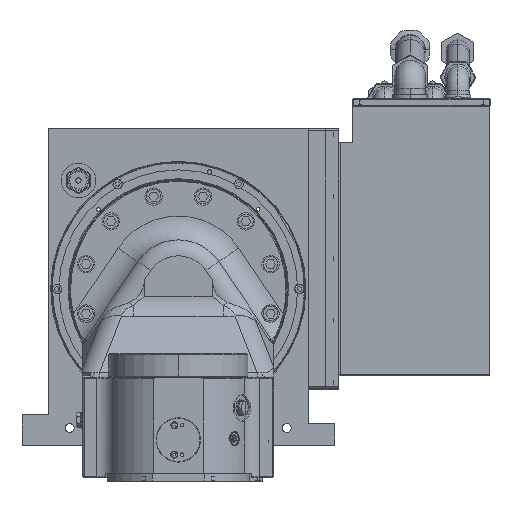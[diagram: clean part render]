
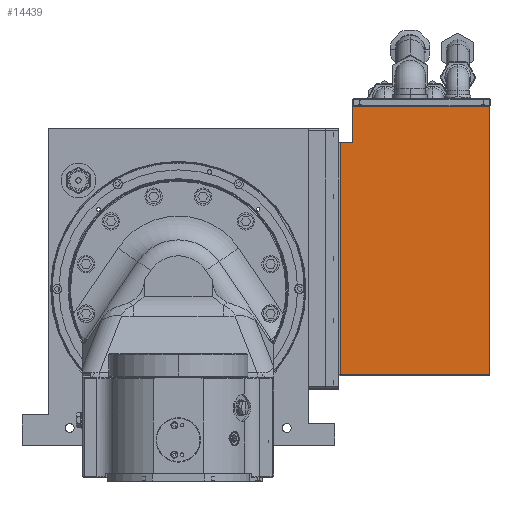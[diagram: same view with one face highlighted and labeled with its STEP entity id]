
A CAD part, top view. The second image highlights one B-rep face of the part: STEP entity #14439.
In plain terms, the highlighted planar face has unit normal (0, 0, 1).
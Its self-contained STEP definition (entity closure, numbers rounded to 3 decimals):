
#1931 = CARTESIAN_POINT ( 'NONE',  ( 201., 477., -78.7 ) ) ;
#2237 = EDGE_CURVE ( 'NONE', #51050, #56015, #31782, .T. ) ;
#2876 = EDGE_CURVE ( 'NONE', #29528, #60802, #55904, .T. ) ;
#5516 = VECTOR ( 'NONE', #53227, 1000. ) ;
#6088 = DIRECTION ( 'NONE',  ( 1., 0., 0. ) ) ;
#6266 = VERTEX_POINT ( 'NONE', #26398 ) ;
#9871 = DIRECTION ( 'NONE',  ( 0., 0., -1. ) ) ;
#10381 = LINE ( 'NONE', #29599, #20284 ) ;
#10738 = ORIENTED_EDGE ( 'NONE', *, *, #2876, .T. ) ;
#11301 = DIRECTION ( 'NONE',  ( 0., 1., 0. ) ) ;
#11641 = DIRECTION ( 'NONE',  ( 0., -1., 0. ) ) ;
#12230 = VERTEX_POINT ( 'NONE', #1931 ) ;
#12506 = EDGE_CURVE ( 'NONE', #6266, #12230, #54404, .T. ) ;
#12584 = VECTOR ( 'NONE', #11301, 1000. ) ;
#13616 = VECTOR ( 'NONE', #11641, 1000. ) ;
#14304 = DIRECTION ( 'NONE',  ( 0., -1., 0. ) ) ;
#14439 = ADVANCED_FACE ( 'NONE', ( #34434 ), #53292, .F. ) ;
#20284 = VECTOR ( 'NONE', #20444, 1000. ) ;
#20444 = DIRECTION ( 'NONE',  ( -1., 0., 0. ) ) ;
#25468 = EDGE_CURVE ( 'NONE', #56015, #60802, #10381, .T. ) ;
#26398 = CARTESIAN_POINT ( 'NONE',  ( 201., 436., -78.7 ) ) ;
#27000 = ORIENTED_EDGE ( 'NONE', *, *, #25468, .F. ) ;
#28975 = LINE ( 'NONE', #39646, #37702 ) ;
#29053 = CARTESIAN_POINT ( 'NONE',  ( 185., 436., -78.7 ) ) ;
#29528 = VERTEX_POINT ( 'NONE', #29053 ) ;
#29599 = CARTESIAN_POINT ( 'NONE',  ( 359., 168., -78.7 ) ) ;
#29717 = CARTESIAN_POINT ( 'NONE',  ( 359., 436., -78.7 ) ) ;
#31687 = CARTESIAN_POINT ( 'NONE',  ( 359., 168., -78.7 ) ) ;
#31782 = LINE ( 'NONE', #54740, #13616 ) ;
#33330 = ORIENTED_EDGE ( 'NONE', *, *, #37475, .T. ) ;
#34434 = FACE_OUTER_BOUND ( 'NONE', #53981, .T. ) ;
#37475 = EDGE_CURVE ( 'NONE', #6266, #29528, #28975, .T. ) ;
#37702 = VECTOR ( 'NONE', #58820, 1000. ) ;
#38875 = CARTESIAN_POINT ( 'NONE',  ( 359., 477., -78.7 ) ) ;
#39432 = ORIENTED_EDGE ( 'NONE', *, *, #56644, .F. ) ;
#39624 = CARTESIAN_POINT ( 'NONE',  ( 201., 429., -78.7 ) ) ;
#39646 = CARTESIAN_POINT ( 'NONE',  ( 359., 436., -78.7 ) ) ;
#43787 = CARTESIAN_POINT ( 'NONE',  ( 359., 477., -78.7 ) ) ;
#46575 = ORIENTED_EDGE ( 'NONE', *, *, #2237, .F. ) ;
#51050 = VERTEX_POINT ( 'NONE', #38875 ) ;
#51434 = VECTOR ( 'NONE', #14304, 1000. ) ;
#53008 = CARTESIAN_POINT ( 'NONE',  ( 185., 436., -78.7 ) ) ;
#53227 = DIRECTION ( 'NONE',  ( 1., 0., 0. ) ) ;
#53292 = PLANE ( 'NONE',  #56259 ) ;
#53533 = LINE ( 'NONE', #43787, #5516 ) ;
#53603 = CARTESIAN_POINT ( 'NONE',  ( 185., 168., -78.7 ) ) ;
#53981 = EDGE_LOOP ( 'NONE', ( #46575, #39432, #55481, #33330, #10738, #27000 ) ) ;
#54404 = LINE ( 'NONE', #39624, #12584 ) ;
#54740 = CARTESIAN_POINT ( 'NONE',  ( 359., 436., -78.7 ) ) ;
#55481 = ORIENTED_EDGE ( 'NONE', *, *, #12506, .F. ) ;
#55904 = LINE ( 'NONE', #53008, #51434 ) ;
#56015 = VERTEX_POINT ( 'NONE', #31687 ) ;
#56259 = AXIS2_PLACEMENT_3D ( 'NONE', #29717, #9871, #6088 ) ;
#56644 = EDGE_CURVE ( 'NONE', #12230, #51050, #53533, .T. ) ;
#58820 = DIRECTION ( 'NONE',  ( -1., 0., 0. ) ) ;
#60802 = VERTEX_POINT ( 'NONE', #53603 ) ;
